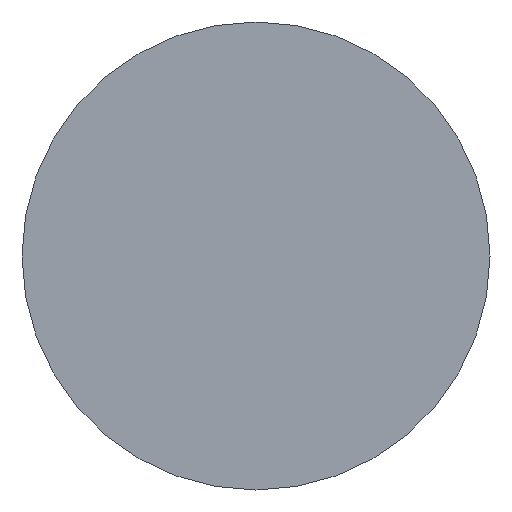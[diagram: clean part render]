
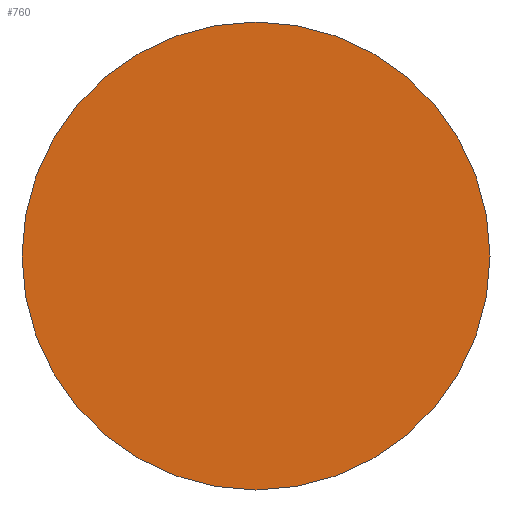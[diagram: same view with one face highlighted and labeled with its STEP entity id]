
A CAD part, front view. The second image highlights one B-rep face of the part: STEP entity #760.
In plain terms, the highlighted planar face has unit normal (0, -1, 0).
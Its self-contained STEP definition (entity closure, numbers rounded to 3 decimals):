
#433 = CIRCLE ( 'NONE', #2822, 41. ) ;
#519 = ORIENTED_EDGE ( 'NONE', *, *, #769, .T. ) ;
#540 = PLANE ( 'NONE',  #4119 ) ;
#716 = DIRECTION ( 'NONE',  ( 0., -1., 0. ) ) ;
#760 = ADVANCED_FACE ( 'NONE', ( #3116 ), #540, .T. ) ;
#769 = EDGE_CURVE ( 'NONE', #2399, #2584, #433, .T. ) ;
#816 = DIRECTION ( 'NONE',  ( 0., -1., 0. ) ) ;
#1210 = EDGE_CURVE ( 'NONE', #2584, #2399, #1720, .T. ) ;
#1591 = AXIS2_PLACEMENT_3D ( 'NONE', #3650, #716, #2737 ) ;
#1720 = CIRCLE ( 'NONE', #1591, 41. ) ;
#1840 = CARTESIAN_POINT ( 'NONE',  ( 0., -30., 0. ) ) ;
#2211 = EDGE_LOOP ( 'NONE', ( #2235, #519 ) ) ;
#2235 = ORIENTED_EDGE ( 'NONE', *, *, #1210, .T. ) ;
#2399 = VERTEX_POINT ( 'NONE', #3097 ) ;
#2443 = DIRECTION ( 'NONE',  ( 1., 0., 0. ) ) ;
#2584 = VERTEX_POINT ( 'NONE', #2622 ) ;
#2622 = CARTESIAN_POINT ( 'NONE',  ( 41., -30., 0. ) ) ;
#2737 = DIRECTION ( 'NONE',  ( 1., 0., 0. ) ) ;
#2744 = DIRECTION ( 'NONE',  ( 1., 0., 0. ) ) ;
#2822 = AXIS2_PLACEMENT_3D ( 'NONE', #1840, #816, #2443 ) ;
#3097 = CARTESIAN_POINT ( 'NONE',  ( -41., -30., 0. ) ) ;
#3116 = FACE_OUTER_BOUND ( 'NONE', #2211, .T. ) ;
#3418 = CARTESIAN_POINT ( 'NONE',  ( 41., -30., 0. ) ) ;
#3650 = CARTESIAN_POINT ( 'NONE',  ( 0., -30., 0. ) ) ;
#4114 = DIRECTION ( 'NONE',  ( 0., -1., 0. ) ) ;
#4119 = AXIS2_PLACEMENT_3D ( 'NONE', #3418, #4114, #2744 ) ;
